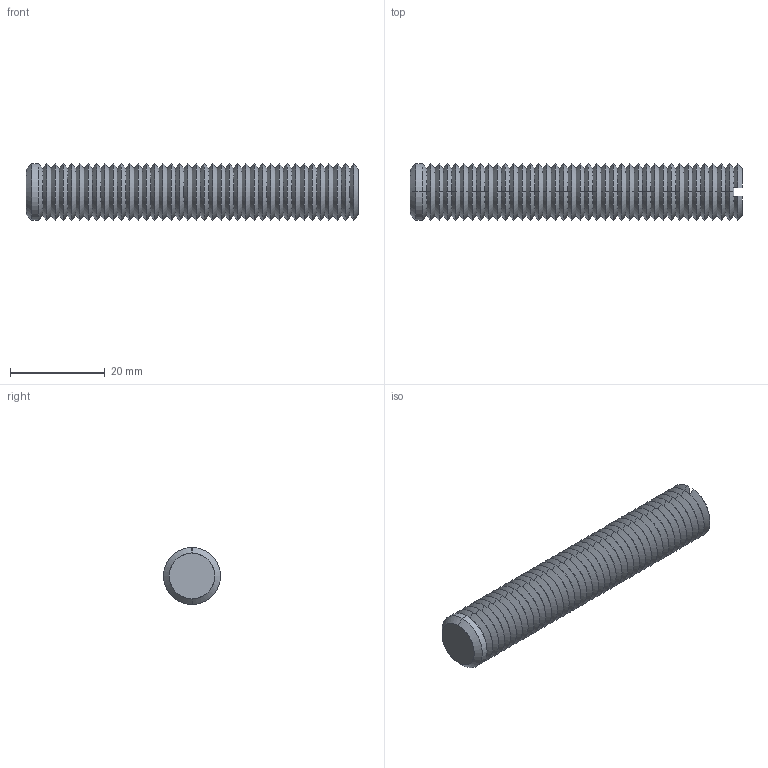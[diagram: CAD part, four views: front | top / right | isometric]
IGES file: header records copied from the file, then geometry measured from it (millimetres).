
Start section: SolidWorks IGES file using analytic representation for surfaces
Global section: file name: C:\Documents and Settings\IANO\Desktop\Temp File\Process pending\EXISTING\34300_v2\34300_v2_20170622_IGES\34300.W0127.igs; native system: SolidWorks 2009; preprocessor: SolidWorks 2009; author: IANO; date: 170622.094258; units: millimetre
Bounding box: 70 x 12 x 12 mm (x, y, z)
Surface area: 3981 mm2 (no closed solid volume)
Topology: 0 solids, 0 shells, 164 faces, 720 edges, 720 vertices
Faces by surface type: revolution 158, bspline 6
